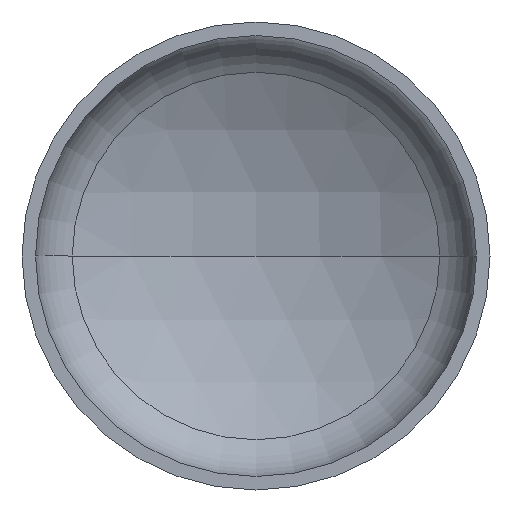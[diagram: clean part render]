
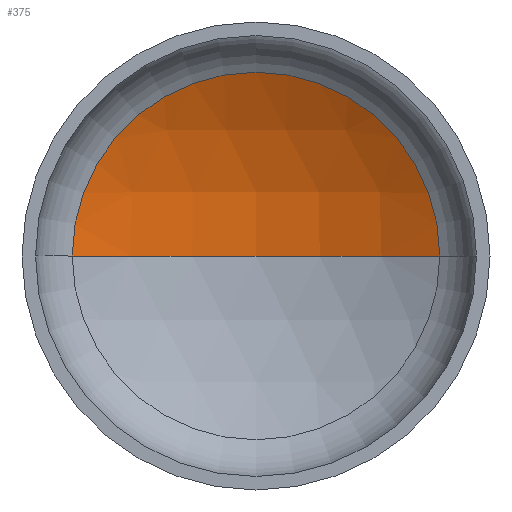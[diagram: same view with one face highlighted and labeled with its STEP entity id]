
A CAD part, front view. The second image highlights one B-rep face of the part: STEP entity #375.
In plain terms, the highlighted spherical face has radius 2880 mm.
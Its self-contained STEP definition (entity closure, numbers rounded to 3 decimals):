
#11 = AXIS2_PLACEMENT_3D ( 'NONE', #403, #131, #127 ) ;
#12 = VERTEX_POINT ( 'NONE', #233 ) ;
#20 = AXIS2_PLACEMENT_3D ( 'NONE', #95, #97, #121 ) ;
#24 = CARTESIAN_POINT ( 'NONE',  ( 0., -1950.77, 0. ) ) ;
#28 = AXIS2_PLACEMENT_3D ( 'NONE', #390, #383, #132 ) ;
#30 = ORIENTED_EDGE ( 'NONE', *, *, #309, .T. ) ;
#95 = CARTESIAN_POINT ( 'NONE',  ( 0., -1950.77, 0. ) ) ;
#96 = ORIENTED_EDGE ( 'NONE', *, *, #325, .F. ) ;
#97 = DIRECTION ( 'NONE',  ( 0., 0., -1. ) ) ;
#121 = DIRECTION ( 'NONE',  ( -1., 0., 0. ) ) ;
#123 = VERTEX_POINT ( 'NONE', #154 ) ;
#127 = DIRECTION ( 'NONE',  ( 1., 0., 0. ) ) ;
#131 = DIRECTION ( 'NONE',  ( 0., 0., 1. ) ) ;
#132 = DIRECTION ( 'NONE',  ( 1., 0., 0. ) ) ;
#154 = CARTESIAN_POINT ( 'NONE',  ( -1413.368, 558.571, 0. ) ) ;
#157 = SPHERICAL_SURFACE ( 'NONE', #243, 2880. ) ;
#172 = CIRCLE ( 'NONE', #20, 2880. ) ;
#174 = VERTEX_POINT ( 'NONE', #212 ) ;
#179 = EDGE_LOOP ( 'NONE', ( #96, #30, #328 ) ) ;
#212 = CARTESIAN_POINT ( 'NONE',  ( 1413.368, 558.571, 0. ) ) ;
#225 = DIRECTION ( 'NONE',  ( 0., 0., -1. ) ) ;
#233 = CARTESIAN_POINT ( 'NONE',  ( 0., 929.23, 0. ) ) ;
#243 = AXIS2_PLACEMENT_3D ( 'NONE', #24, #225, #348 ) ;
#301 = EDGE_CURVE ( 'NONE', #174, #123, #341, .T. ) ;
#309 = EDGE_CURVE ( 'NONE', #12, #174, #172, .T. ) ;
#310 = FACE_OUTER_BOUND ( 'NONE', #179, .T. ) ;
#325 = EDGE_CURVE ( 'NONE', #12, #123, #331, .T. ) ;
#328 = ORIENTED_EDGE ( 'NONE', *, *, #301, .T. ) ;
#331 = CIRCLE ( 'NONE', #11, 2880. ) ;
#341 = CIRCLE ( 'NONE', #28, 1413.368 ) ;
#348 = DIRECTION ( 'NONE',  ( -1., 0., 0. ) ) ;
#375 = ADVANCED_FACE ( 'NONE', ( #310 ), #157, .F. ) ;
#383 = DIRECTION ( 'NONE',  ( 0., -1., 0. ) ) ;
#390 = CARTESIAN_POINT ( 'NONE',  ( 0., 558.571, 0. ) ) ;
#403 = CARTESIAN_POINT ( 'NONE',  ( 0., -1950.77, 0. ) ) ;
